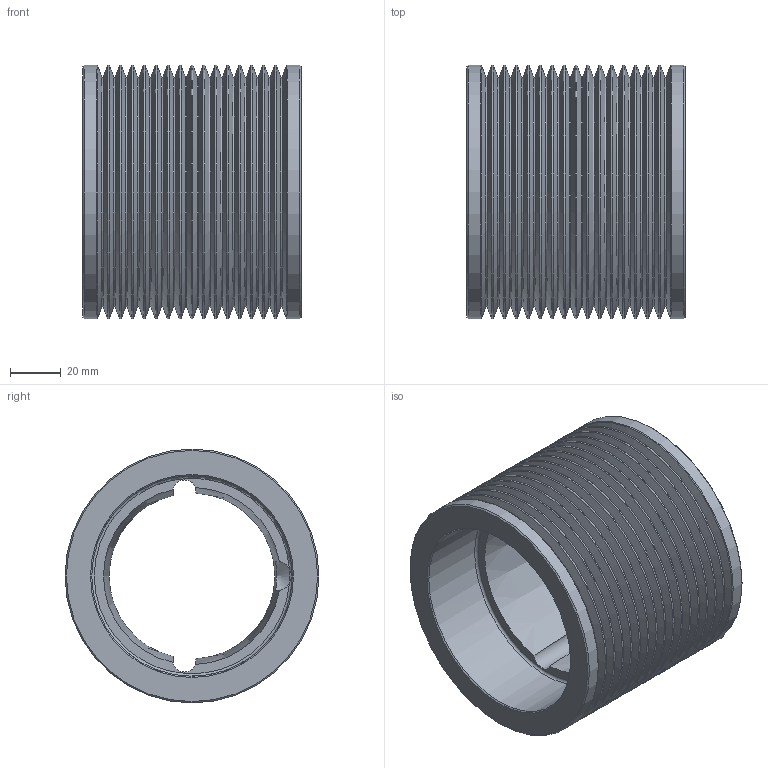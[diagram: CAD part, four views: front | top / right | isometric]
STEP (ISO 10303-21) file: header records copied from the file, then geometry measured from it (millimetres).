
FILE_DESCRIPTION(/* description */ (''),/* implementation_level */ '2;1');
FILE_NAME(/* name */ 'C:\Users\stagistaCAD\Desktop\48216100.stp',/* time_stamp */ '2018-06-14T10:00:34+02:00',/* author */ ('stagistacad'),/* organization */ (''),/* preprocessor_version */ 'ST-DEVELOPER v15.6',/* originating_system */ 'Autodesk Inventor 2015',/* authorisation */ '');
FILE_SCHEMA (('AUTOMOTIVE_DESIGN { 1 0 10303 214 3 1 1 }'));
Length unit declared in the file: millimetre
Products named in the file (1): 48216100
Bounding box: 86 x 100 x 100 mm (x, y, z)
Volume: 237197.8 mm3; surface area: 85937.9 mm2
Topology: 1 solids, 1 shells, 86 faces, 178 edges, 94 vertices
Faces by surface type: cone 39, torus 35, cylinder 7, plane 5
Full cylindrical faces by diameter (mm): 79 x2, 100 x2
Entity records: 1888 total; most frequent: DIRECTION 358, CARTESIAN_POINT 336, ORIENTED_EDGE 198, AXIS2_PLACEMENT_3D 179, EDGE_LOOP 164, EDGE_CURVE 99, CIRCLE 92, VERTEX_POINT 91
